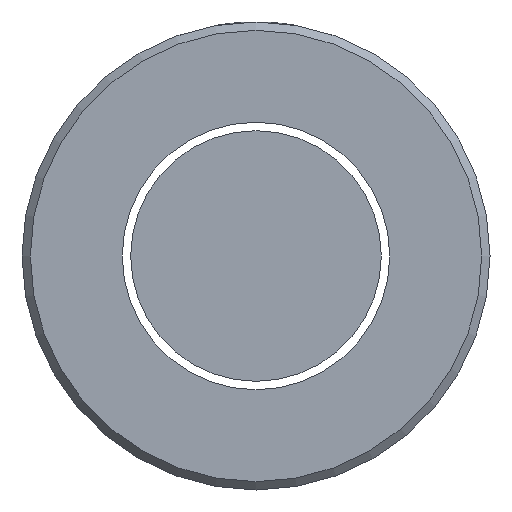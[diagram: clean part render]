
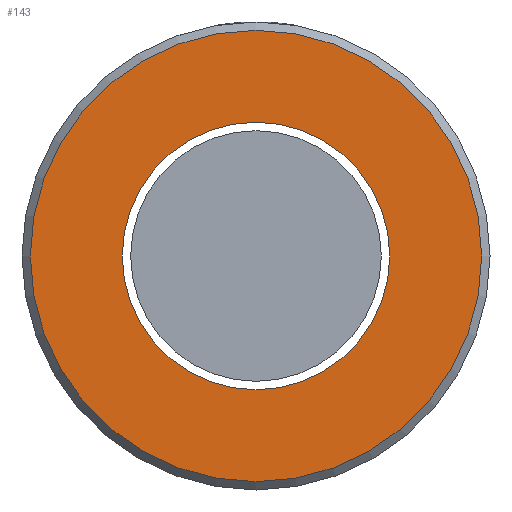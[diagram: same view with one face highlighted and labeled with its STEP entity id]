
A CAD part, left-side view. The second image highlights one B-rep face of the part: STEP entity #143.
In plain terms, the highlighted planar face has unit normal (-1, 0, 0).
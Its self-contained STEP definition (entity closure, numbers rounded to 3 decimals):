
#38 = CARTESIAN_POINT ( 'NONE',  ( -33.75, 0., 0. ) ) ;
#74 = CIRCLE ( 'NONE', #706, 13.5 ) ;
#143 = ADVANCED_FACE ( 'NONE', ( #722, #494 ), #374, .F. ) ;
#163 = CIRCLE ( 'NONE', #266, 8. ) ;
#178 = DIRECTION ( 'NONE',  ( 0., 1., 0. ) ) ;
#210 = AXIS2_PLACEMENT_3D ( 'NONE', #420, #312, #178 ) ;
#211 = EDGE_CURVE ( 'NONE', #291, #291, #163, .T. ) ;
#266 = AXIS2_PLACEMENT_3D ( 'NONE', #687, #696, #504 ) ;
#291 = VERTEX_POINT ( 'NONE', #534 ) ;
#312 = DIRECTION ( 'NONE',  ( 1., 0., 0. ) ) ;
#374 = PLANE ( 'NONE',  #210 ) ;
#402 = DIRECTION ( 'NONE',  ( -1., 0., 0. ) ) ;
#420 = CARTESIAN_POINT ( 'NONE',  ( -33.75, 0., 0. ) ) ;
#465 = EDGE_LOOP ( 'NONE', ( #683 ) ) ;
#494 = FACE_OUTER_BOUND ( 'NONE', #465, .T. ) ;
#504 = DIRECTION ( 'NONE',  ( 0., 1., 0. ) ) ;
#516 = VERTEX_POINT ( 'NONE', #754 ) ;
#529 = EDGE_CURVE ( 'NONE', #516, #516, #74, .T. ) ;
#534 = CARTESIAN_POINT ( 'NONE',  ( -33.75, 8., 0. ) ) ;
#583 = ORIENTED_EDGE ( 'NONE', *, *, #211, .T. ) ;
#612 = EDGE_LOOP ( 'NONE', ( #583 ) ) ;
#639 = DIRECTION ( 'NONE',  ( 0., 0., -1. ) ) ;
#683 = ORIENTED_EDGE ( 'NONE', *, *, #529, .T. ) ;
#687 = CARTESIAN_POINT ( 'NONE',  ( -33.75, 0., 0. ) ) ;
#696 = DIRECTION ( 'NONE',  ( 1., 0., 0. ) ) ;
#706 = AXIS2_PLACEMENT_3D ( 'NONE', #38, #402, #639 ) ;
#722 = FACE_BOUND ( 'NONE', #612, .T. ) ;
#754 = CARTESIAN_POINT ( 'NONE',  ( -33.75, 0., -13.5 ) ) ;
